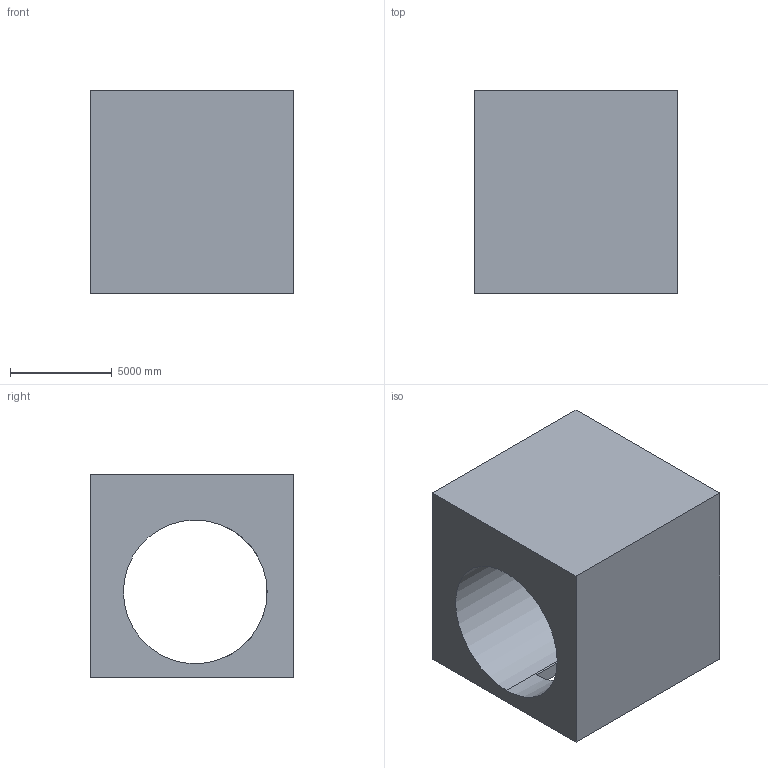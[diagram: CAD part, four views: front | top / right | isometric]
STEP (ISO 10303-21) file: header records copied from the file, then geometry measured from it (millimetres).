
FILE_DESCRIPTION (( 'STEP AP203' ), '1' );
FILE_NAME ('13.STEP', '2022-08-31T11:09:38', ( 'user' ), ( '' ), 'SwSTEP 2.0', 'SolidWorks 2021', '' );
FILE_SCHEMA (( 'CONFIG_CONTROL_DESIGN' ));
Length unit declared in the file: centimetre
Products named in the file (1): 13
Bounding box: 10000 x 10000 x 10000 mm (x, y, z)
Volume: 558463497653.7 mm3; surface area: 720054685.8 mm2
Topology: 1 solids, 1 shells, 14 faces, 39 edges, 26 vertices
Faces by surface type: plane 12, cylinder 2
Entity records: 532 total; most frequent: CARTESIAN_POINT 80, ORIENTED_EDGE 78, DIRECTION 77, EDGE_CURVE 39, LINE 31, VECTOR 31, VERTEX_POINT 26, AXIS2_PLACEMENT_3D 23
